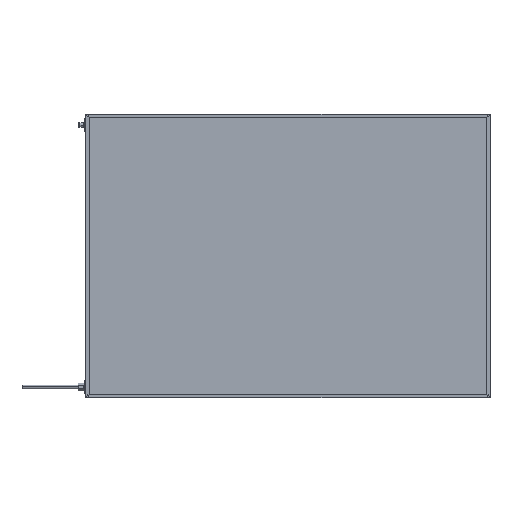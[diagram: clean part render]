
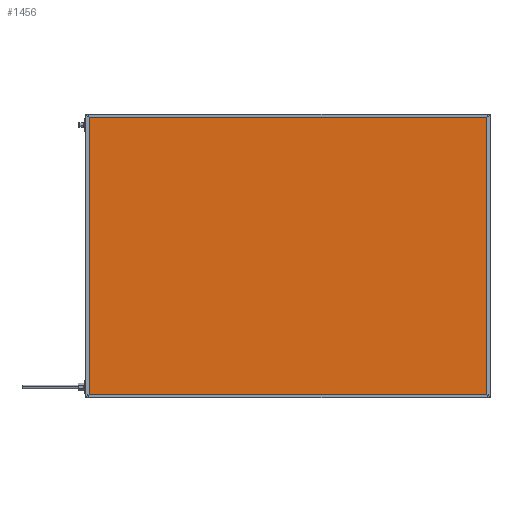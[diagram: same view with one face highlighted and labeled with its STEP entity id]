
A CAD part, top view. The second image highlights one B-rep face of the part: STEP entity #1456.
In plain terms, the highlighted planar face has unit normal (0, 0, 1).
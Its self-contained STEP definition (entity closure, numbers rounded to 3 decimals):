
#346 = CARTESIAN_POINT ( 'NONE',  ( 996., 0., 41.85 ) ) ;
#473 = CARTESIAN_POINT ( 'NONE',  ( 0., 0., 41.85 ) ) ;
#1329 = VECTOR ( 'NONE', #7068, 1000. ) ;
#1456 = ADVANCED_FACE ( 'NONE', ( #7416 ), #7779, .F. ) ;
#1928 = DIRECTION ( 'NONE',  ( 1., 0., 0. ) ) ;
#2403 = AXIS2_PLACEMENT_3D ( 'NONE', #473, #6044, #17419 ) ;
#2417 = CARTESIAN_POINT ( 'NONE',  ( 4., 696., 41.85 ) ) ;
#2435 = EDGE_CURVE ( 'NONE', #13585, #8227, #5389, .T. ) ;
#3340 = CARTESIAN_POINT ( 'NONE',  ( 4., 4., 41.85 ) ) ;
#3724 = VERTEX_POINT ( 'NONE', #3340 ) ;
#4122 = EDGE_CURVE ( 'NONE', #3724, #13585, #5858, .T. ) ;
#4559 = ORIENTED_EDGE ( 'NONE', *, *, #2435, .T. ) ;
#5222 = ORIENTED_EDGE ( 'NONE', *, *, #6597, .T. ) ;
#5389 = LINE ( 'NONE', #346, #7388 ) ;
#5858 = LINE ( 'NONE', #14521, #8314 ) ;
#5924 = DIRECTION ( 'NONE',  ( 0., 1., 0. ) ) ;
#6044 = DIRECTION ( 'NONE',  ( 0., 0., -1. ) ) ;
#6597 = EDGE_CURVE ( 'NONE', #8227, #10821, #12809, .T. ) ;
#6617 = ORIENTED_EDGE ( 'NONE', *, *, #4122, .T. ) ;
#6695 = EDGE_LOOP ( 'NONE', ( #4559, #5222, #12592, #6617 ) ) ;
#6826 = EDGE_CURVE ( 'NONE', #10821, #3724, #12089, .T. ) ;
#7068 = DIRECTION ( 'NONE',  ( -1., 0., 0. ) ) ;
#7388 = VECTOR ( 'NONE', #5924, 1000. ) ;
#7416 = FACE_OUTER_BOUND ( 'NONE', #6695, .T. ) ;
#7779 = PLANE ( 'NONE',  #2403 ) ;
#8227 = VERTEX_POINT ( 'NONE', #11942 ) ;
#8314 = VECTOR ( 'NONE', #1928, 1000. ) ;
#9537 = DIRECTION ( 'NONE',  ( 0., -1., 0. ) ) ;
#10268 = CARTESIAN_POINT ( 'NONE',  ( 996., 4., 41.85 ) ) ;
#10821 = VERTEX_POINT ( 'NONE', #2417 ) ;
#11942 = CARTESIAN_POINT ( 'NONE',  ( 996., 696., 41.85 ) ) ;
#12089 = LINE ( 'NONE', #17626, #15029 ) ;
#12592 = ORIENTED_EDGE ( 'NONE', *, *, #6826, .T. ) ;
#12809 = LINE ( 'NONE', #13990, #1329 ) ;
#13585 = VERTEX_POINT ( 'NONE', #10268 ) ;
#13990 = CARTESIAN_POINT ( 'NONE',  ( 0., 696., 41.85 ) ) ;
#14521 = CARTESIAN_POINT ( 'NONE',  ( 0., 4., 41.85 ) ) ;
#15029 = VECTOR ( 'NONE', #9537, 1000. ) ;
#17419 = DIRECTION ( 'NONE',  ( -1., 0., 0. ) ) ;
#17626 = CARTESIAN_POINT ( 'NONE',  ( 4., 0., 41.85 ) ) ;
